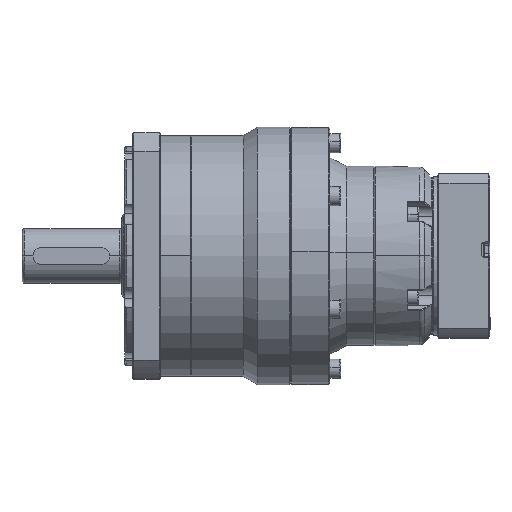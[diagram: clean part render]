
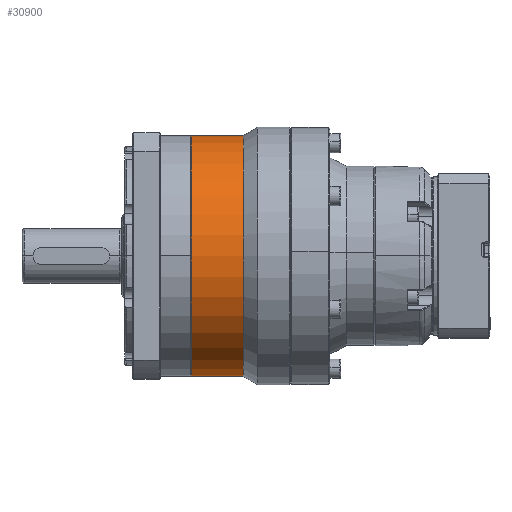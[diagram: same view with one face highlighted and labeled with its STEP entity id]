
A CAD part, top view. The second image highlights one B-rep face of the part: STEP entity #30900.
In plain terms, the highlighted cylindrical face has radius 44 mm (diameter 88 mm), a partial arc.
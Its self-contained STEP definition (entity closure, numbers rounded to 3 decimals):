
#925 = FACE_OUTER_BOUND ( 'NONE', #6231, .T. ) ;
#1075 = EDGE_CURVE ( 'NONE', #12885, #3078, #3742, .T. ) ;
#3078 = VERTEX_POINT ( 'NONE', #40242 ) ;
#3742 = CIRCLE ( 'NONE', #52214, 44. ) ;
#6231 = EDGE_LOOP ( 'NONE', ( #52921, #50412, #59310, #35549 ) ) ;
#9589 = CARTESIAN_POINT ( 'NONE',  ( 3.3, 0., 44. ) ) ;
#10691 = VERTEX_POINT ( 'NONE', #9589 ) ;
#12385 = CARTESIAN_POINT ( 'NONE',  ( 3.3, 0., -44. ) ) ;
#12885 = VERTEX_POINT ( 'NONE', #32619 ) ;
#13048 = CARTESIAN_POINT ( 'NONE',  ( 3.3, 0., 0. ) ) ;
#18252 = DIRECTION ( 'NONE',  ( 0., 0., 1. ) ) ;
#18513 = DIRECTION ( 'NONE',  ( -1., 0., 0. ) ) ;
#22615 = CARTESIAN_POINT ( 'NONE',  ( 0., 0., -44. ) ) ;
#24468 = VERTEX_POINT ( 'NONE', #12385 ) ;
#28227 = EDGE_CURVE ( 'NONE', #12885, #24468, #35945, .T. ) ;
#29557 = CARTESIAN_POINT ( 'NONE',  ( 0., 0., 44. ) ) ;
#30900 = ADVANCED_FACE ( 'NONE', ( #925 ), #59405, .T. ) ;
#32619 = CARTESIAN_POINT ( 'NONE',  ( 22.304, 0., -44. ) ) ;
#33684 = EDGE_CURVE ( 'NONE', #24468, #10691, #59487, .T. ) ;
#35549 = ORIENTED_EDGE ( 'NONE', *, *, #36002, .F. ) ;
#35945 = LINE ( 'NONE', #22615, #48129 ) ;
#36002 = EDGE_CURVE ( 'NONE', #3078, #10691, #44546, .T. ) ;
#38090 = DIRECTION ( 'NONE',  ( -1., 0., 0. ) ) ;
#40242 = CARTESIAN_POINT ( 'NONE',  ( 22.304, 0., 44. ) ) ;
#44546 = LINE ( 'NONE', #29557, #46191 ) ;
#46191 = VECTOR ( 'NONE', #65551, 1000. ) ;
#48129 = VECTOR ( 'NONE', #38090, 1000. ) ;
#49093 = DIRECTION ( 'NONE',  ( 1., 0., 0. ) ) ;
#50412 = ORIENTED_EDGE ( 'NONE', *, *, #28227, .T. ) ;
#52214 = AXIS2_PLACEMENT_3D ( 'NONE', #53930, #53871, #53779 ) ;
#52921 = ORIENTED_EDGE ( 'NONE', *, *, #1075, .F. ) ;
#53779 = DIRECTION ( 'NONE',  ( 0., 0., -1. ) ) ;
#53871 = DIRECTION ( 'NONE',  ( 1., 0., 0. ) ) ;
#53930 = CARTESIAN_POINT ( 'NONE',  ( 22.304, 0., 0. ) ) ;
#54049 = AXIS2_PLACEMENT_3D ( 'NONE', #13048, #49093, #18252 ) ;
#54679 = DIRECTION ( 'NONE',  ( 0., 0., 1. ) ) ;
#58595 = AXIS2_PLACEMENT_3D ( 'NONE', #59601, #18513, #54679 ) ;
#59310 = ORIENTED_EDGE ( 'NONE', *, *, #33684, .T. ) ;
#59405 = CYLINDRICAL_SURFACE ( 'NONE', #58595, 44. ) ;
#59487 = CIRCLE ( 'NONE', #54049, 44. ) ;
#59601 = CARTESIAN_POINT ( 'NONE',  ( 0., 0., 0. ) ) ;
#65551 = DIRECTION ( 'NONE',  ( -1., 0., 0. ) ) ;
